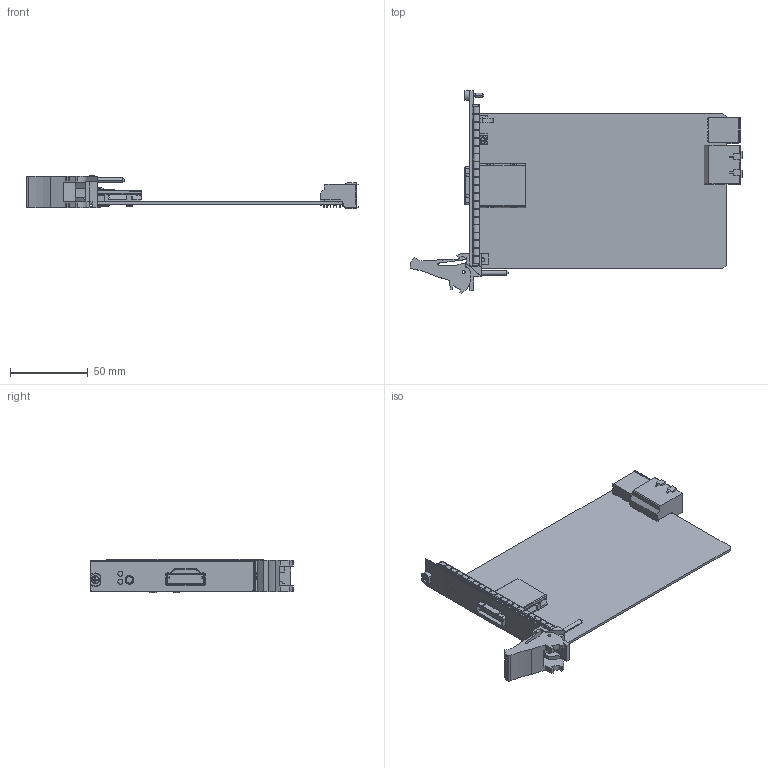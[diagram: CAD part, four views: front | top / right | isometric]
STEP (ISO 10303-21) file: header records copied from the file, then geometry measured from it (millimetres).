
FILE_DESCRIPTION((''),'2;1');
FILE_NAME('CU_PXIE-8262','2013-09-27T',('jjorden'),(''),'PRO/ENGINEER BY PARAMETRIC TECHNOLOGY CORPORATION, 2011490','PRO/ENGINEER BY PARAMETRIC TECHNOLOGY CORPORATION, 2011490','');
FILE_SCHEMA(('CONFIG_CONTROL_DESIGN'));
Products named in the file (1): CU_PXIE-8262
Bounding box: 213.62 x 130.5 x 21.68 mm (x, y, z)
Volume: 58313.7 mm3; surface area: 55513.1 mm2
Topology: 1 solids, 4 shells, 2528 faces, 6710 edges, 4427 vertices
Faces by surface type: plane 1773, cylinder 656, cone 57, torus 26, sphere 16
Entity records: 79561 total; most frequent: CARTESIAN_POINT 14663, ORIENTED_EDGE 13412, DIRECTION 13310, EDGE_CURVE 6706, VECTOR 4980, LINE 4980, VERTEX_POINT 4427, AXIS2_PLACEMENT_3D 4165
